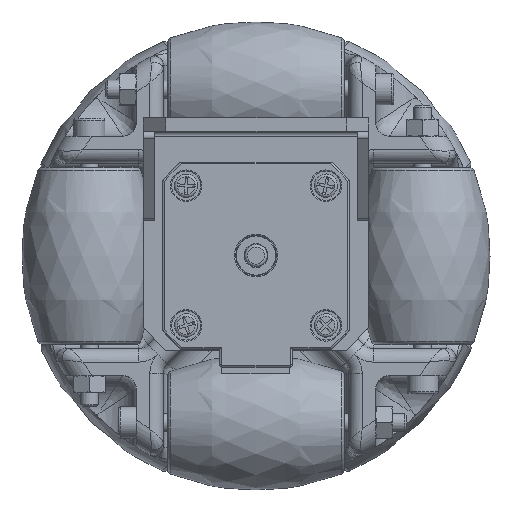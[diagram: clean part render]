
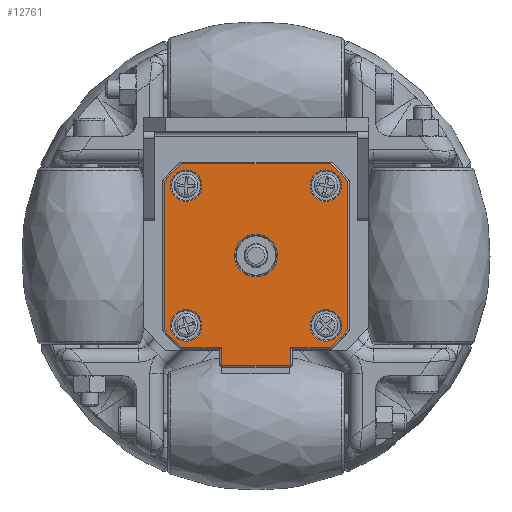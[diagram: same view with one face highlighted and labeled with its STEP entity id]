
A CAD part, top view. The second image highlights one B-rep face of the part: STEP entity #12761.
In plain terms, the highlighted planar face has unit normal (0, 0, 1) as drawn and (0, -1, 0) by its records, which use the part's own axes.
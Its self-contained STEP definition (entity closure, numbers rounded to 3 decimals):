
#532=FACE_BOUND('',#4334,.T.);
#533=FACE_BOUND('',#4335,.T.);
#534=FACE_BOUND('',#4336,.T.);
#535=FACE_BOUND('',#4337,.T.);
#536=FACE_BOUND('',#4338,.T.);
#736=PLANE('',#14514);
#1385=LINE('',#25726,#2216);
#1386=LINE('',#25730,#2217);
#1387=LINE('',#25732,#2218);
#1388=LINE('',#25736,#2219);
#1389=LINE('',#25740,#2220);
#1390=LINE('',#25744,#2221);
#1391=LINE('',#25748,#2222);
#1392=LINE('',#25749,#2223);
#2216=VECTOR('',#17551,1000.);
#2217=VECTOR('',#17554,1000.);
#2218=VECTOR('',#17555,1000.);
#2219=VECTOR('',#17558,1000.);
#2220=VECTOR('',#17561,1000.);
#2221=VECTOR('',#17564,1000.);
#2222=VECTOR('',#17567,1000.);
#2223=VECTOR('',#17568,1000.);
#3500=FACE_OUTER_BOUND('',#4333,.T.);
#4333=EDGE_LOOP('',(#10909,#10910,#10911,#10912,#10913,#10914,#10915,#10916,
#10917,#10918,#10919,#10920,#10921,#10922));
#4334=EDGE_LOOP('',(#10923));
#4335=EDGE_LOOP('',(#10924));
#4336=EDGE_LOOP('',(#10925));
#4337=EDGE_LOOP('',(#10926));
#4338=EDGE_LOOP('',(#10927));
#5392=CIRCLE('',#14515,0.1);
#5393=CIRCLE('',#14516,0.1);
#5394=CIRCLE('',#14517,26.2);
#5395=CIRCLE('',#14518,26.2);
#5396=CIRCLE('',#14519,26.2);
#5397=CIRCLE('',#14520,26.2);
#5398=CIRCLE('',#14521,3.5);
#5399=CIRCLE('',#14522,3.5);
#5400=CIRCLE('',#14523,3.5);
#5401=CIRCLE('',#14524,4.75);
#5402=CIRCLE('',#14525,3.5);
#6299=VERTEX_POINT('',#25722);
#6300=VERTEX_POINT('',#25723);
#6301=VERTEX_POINT('',#25725);
#6302=VERTEX_POINT('',#25727);
#6303=VERTEX_POINT('',#25729);
#6304=VERTEX_POINT('',#25731);
#6305=VERTEX_POINT('',#25733);
#6306=VERTEX_POINT('',#25735);
#6307=VERTEX_POINT('',#25737);
#6308=VERTEX_POINT('',#25739);
#6309=VERTEX_POINT('',#25741);
#6310=VERTEX_POINT('',#25743);
#6311=VERTEX_POINT('',#25745);
#6312=VERTEX_POINT('',#25747);
#6313=VERTEX_POINT('',#25750);
#6314=VERTEX_POINT('',#25752);
#6315=VERTEX_POINT('',#25754);
#6316=VERTEX_POINT('',#25756);
#6317=VERTEX_POINT('',#25758);
#7907=EDGE_CURVE('',#6299,#6300,#5392,.F.);
#7908=EDGE_CURVE('',#6300,#6301,#1385,.F.);
#7909=EDGE_CURVE('',#6301,#6302,#5393,.F.);
#7910=EDGE_CURVE('',#6302,#6303,#1386,.T.);
#7911=EDGE_CURVE('',#6303,#6304,#1387,.F.);
#7912=EDGE_CURVE('',#6304,#6305,#5394,.F.);
#7913=EDGE_CURVE('',#6305,#6306,#1388,.F.);
#7914=EDGE_CURVE('',#6306,#6307,#5395,.F.);
#7915=EDGE_CURVE('',#6307,#6308,#1389,.F.);
#7916=EDGE_CURVE('',#6308,#6309,#5396,.F.);
#7917=EDGE_CURVE('',#6309,#6310,#1390,.F.);
#7918=EDGE_CURVE('',#6310,#6311,#5397,.F.);
#7919=EDGE_CURVE('',#6311,#6312,#1391,.F.);
#7920=EDGE_CURVE('',#6312,#6299,#1392,.F.);
#7921=EDGE_CURVE('',#6313,#6313,#5398,.T.);
#7922=EDGE_CURVE('',#6314,#6314,#5399,.T.);
#7923=EDGE_CURVE('',#6315,#6315,#5400,.T.);
#7924=EDGE_CURVE('',#6316,#6316,#5401,.T.);
#7925=EDGE_CURVE('',#6317,#6317,#5402,.T.);
#10909=ORIENTED_EDGE('',*,*,#7907,.T.);
#10910=ORIENTED_EDGE('',*,*,#7908,.T.);
#10911=ORIENTED_EDGE('',*,*,#7909,.T.);
#10912=ORIENTED_EDGE('',*,*,#7910,.T.);
#10913=ORIENTED_EDGE('',*,*,#7911,.T.);
#10914=ORIENTED_EDGE('',*,*,#7912,.T.);
#10915=ORIENTED_EDGE('',*,*,#7913,.T.);
#10916=ORIENTED_EDGE('',*,*,#7914,.T.);
#10917=ORIENTED_EDGE('',*,*,#7915,.T.);
#10918=ORIENTED_EDGE('',*,*,#7916,.T.);
#10919=ORIENTED_EDGE('',*,*,#7917,.T.);
#10920=ORIENTED_EDGE('',*,*,#7918,.T.);
#10921=ORIENTED_EDGE('',*,*,#7919,.T.);
#10922=ORIENTED_EDGE('',*,*,#7920,.T.);
#10923=ORIENTED_EDGE('',*,*,#7921,.T.);
#10924=ORIENTED_EDGE('',*,*,#7922,.T.);
#10925=ORIENTED_EDGE('',*,*,#7923,.T.);
#10926=ORIENTED_EDGE('',*,*,#7924,.T.);
#10927=ORIENTED_EDGE('',*,*,#7925,.T.);
#12761=ADVANCED_FACE('',(#3500,#532,#533,#534,#535,#536),#736,.F.);
#14514=AXIS2_PLACEMENT_3D('',#25721,#17547,#17548);
#14515=AXIS2_PLACEMENT_3D('',#25724,#17549,#17550);
#14516=AXIS2_PLACEMENT_3D('',#25728,#17552,#17553);
#14517=AXIS2_PLACEMENT_3D('',#25734,#17556,#17557);
#14518=AXIS2_PLACEMENT_3D('',#25738,#17559,#17560);
#14519=AXIS2_PLACEMENT_3D('',#25742,#17562,#17563);
#14520=AXIS2_PLACEMENT_3D('',#25746,#17565,#17566);
#14521=AXIS2_PLACEMENT_3D('',#25751,#17569,#17570);
#14522=AXIS2_PLACEMENT_3D('',#25753,#17571,#17572);
#14523=AXIS2_PLACEMENT_3D('',#25755,#17573,#17574);
#14524=AXIS2_PLACEMENT_3D('',#25757,#17575,#17576);
#14525=AXIS2_PLACEMENT_3D('',#25759,#17577,#17578);
#17547=DIRECTION('center_axis',(0.,1.,0.));
#17548=DIRECTION('ref_axis',(0.,0.,1.));
#17549=DIRECTION('center_axis',(0.,1.,0.));
#17550=DIRECTION('ref_axis',(0.,0.,1.));
#17551=DIRECTION('',(1.,0.,0.));
#17552=DIRECTION('center_axis',(0.,1.,0.));
#17553=DIRECTION('ref_axis',(0.,0.,1.));
#17554=DIRECTION('',(0.,0.,-1.));
#17555=DIRECTION('',(1.,0.,0.));
#17556=DIRECTION('center_axis',(0.,1.,0.));
#17557=DIRECTION('ref_axis',(0.,0.,1.));
#17558=DIRECTION('',(0.,0.,1.));
#17559=DIRECTION('center_axis',(0.,1.,0.));
#17560=DIRECTION('ref_axis',(0.,0.,1.));
#17561=DIRECTION('',(-1.,0.,0.));
#17562=DIRECTION('center_axis',(0.,1.,0.));
#17563=DIRECTION('ref_axis',(0.,0.,1.));
#17564=DIRECTION('',(0.,0.,-1.));
#17565=DIRECTION('center_axis',(0.,1.,0.));
#17566=DIRECTION('ref_axis',(0.,0.,1.));
#17567=DIRECTION('',(1.,0.,0.));
#17568=DIRECTION('',(0.,0.,-1.));
#17569=DIRECTION('center_axis',(0.,1.,0.));
#17570=DIRECTION('ref_axis',(0.,0.,1.));
#17571=DIRECTION('center_axis',(0.,1.,0.));
#17572=DIRECTION('ref_axis',(0.,0.,1.));
#17573=DIRECTION('center_axis',(0.,1.,0.));
#17574=DIRECTION('ref_axis',(0.,0.,1.));
#17575=DIRECTION('center_axis',(0.,1.,0.));
#17576=DIRECTION('ref_axis',(0.,0.,1.));
#17577=DIRECTION('center_axis',(0.,1.,0.));
#17578=DIRECTION('ref_axis',(0.,0.,1.));
#25721=CARTESIAN_POINT('Origin',(0.,0.,0.));
#25722=CARTESIAN_POINT('',(7.7,0.,24.25));
#25723=CARTESIAN_POINT('',(7.6,0.,24.35));
#25724=CARTESIAN_POINT('Origin',(7.6,0.,24.25));
#25725=CARTESIAN_POINT('',(-7.6,0.,24.35));
#25726=CARTESIAN_POINT('',(-7.6,0.,24.35));
#25727=CARTESIAN_POINT('',(-7.7,0.,24.25));
#25728=CARTESIAN_POINT('Origin',(-7.6,0.,24.25));
#25729=CARTESIAN_POINT('',(-7.7,0.,20.35));
#25730=CARTESIAN_POINT('',(-7.7,0.,0.));
#25731=CARTESIAN_POINT('',(-16.502,0.,20.35));
#25732=CARTESIAN_POINT('',(0.,0.,20.35));
#25733=CARTESIAN_POINT('',(-20.35,0.,16.502));
#25734=CARTESIAN_POINT('Origin',(0.,0.,0.));
#25735=CARTESIAN_POINT('',(-20.35,0.,-16.502));
#25736=CARTESIAN_POINT('',(-20.35,0.,0.));
#25737=CARTESIAN_POINT('',(-16.502,0.,-20.35));
#25738=CARTESIAN_POINT('Origin',(0.,0.,0.));
#25739=CARTESIAN_POINT('',(16.502,0.,-20.35));
#25740=CARTESIAN_POINT('',(0.,0.,-20.35));
#25741=CARTESIAN_POINT('',(20.35,0.,-16.502));
#25742=CARTESIAN_POINT('Origin',(0.,0.,0.));
#25743=CARTESIAN_POINT('',(20.35,0.,16.502));
#25744=CARTESIAN_POINT('',(20.35,0.,0.));
#25745=CARTESIAN_POINT('',(16.502,0.,20.35));
#25746=CARTESIAN_POINT('Origin',(0.,0.,0.));
#25747=CARTESIAN_POINT('',(7.7,0.,20.35));
#25748=CARTESIAN_POINT('',(0.,0.,20.35));
#25749=CARTESIAN_POINT('',(7.7,0.,0.));
#25750=CARTESIAN_POINT('',(15.5,0.,12.));
#25751=CARTESIAN_POINT('Origin',(15.5,0.,15.5));
#25752=CARTESIAN_POINT('',(-15.5,0.,-19.));
#25753=CARTESIAN_POINT('Origin',(-15.5,0.,-15.5));
#25754=CARTESIAN_POINT('',(15.5,0.,-19.));
#25755=CARTESIAN_POINT('Origin',(15.5,0.,-15.5));
#25756=CARTESIAN_POINT('',(0.,0.,-4.75));
#25757=CARTESIAN_POINT('Origin',(0.,0.,0.));
#25758=CARTESIAN_POINT('',(-15.5,0.,12.));
#25759=CARTESIAN_POINT('Origin',(-15.5,0.,15.5));
